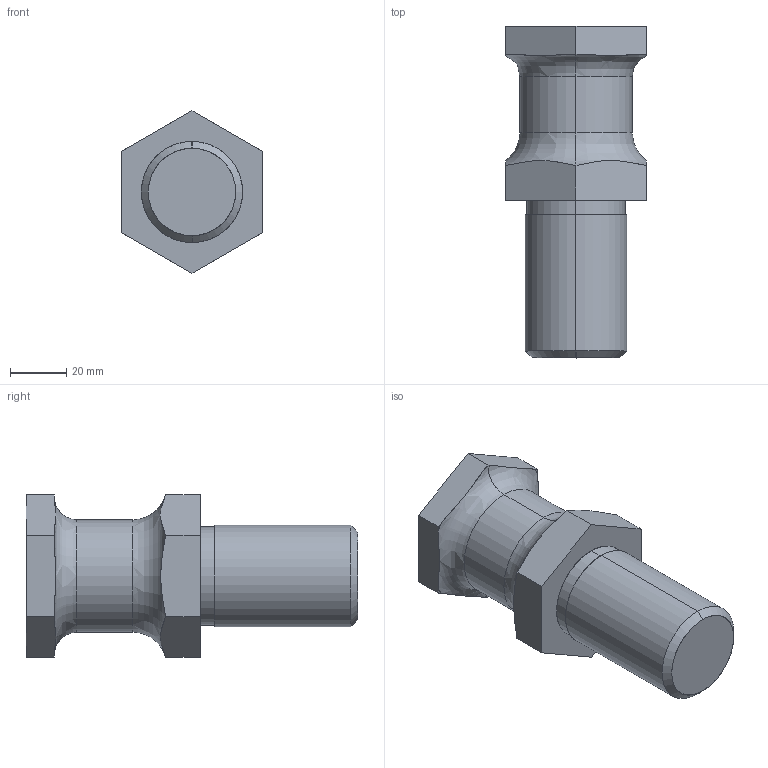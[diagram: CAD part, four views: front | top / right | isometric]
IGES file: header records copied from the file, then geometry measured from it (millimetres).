
Start section: START RECORD GO HERE.
Global section: file name: 395P-02-040-036.igs; native system: DASSAULT SYSTEMES CATIA V5 R20 - www.3ds.com; preprocessor: CATIA Version 5 Release 20 ; author: Utente; organization: NB04-ASUS; date: 20200409.203614; units: millimetre
Bounding box: 50 x 118 x 57.73 mm (x, y, z)
Surface area: 20509.8 mm2 (no closed solid volume)
Topology: 0 solids, 0 shells, 34 faces, 171 edges, 171 vertices
Faces by surface type: extrusion 22, revolution 12
